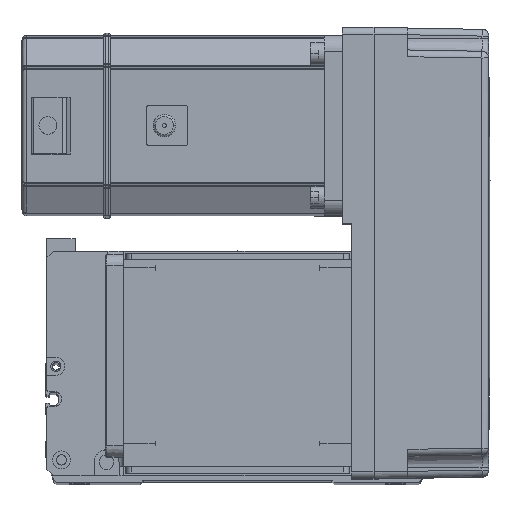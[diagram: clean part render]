
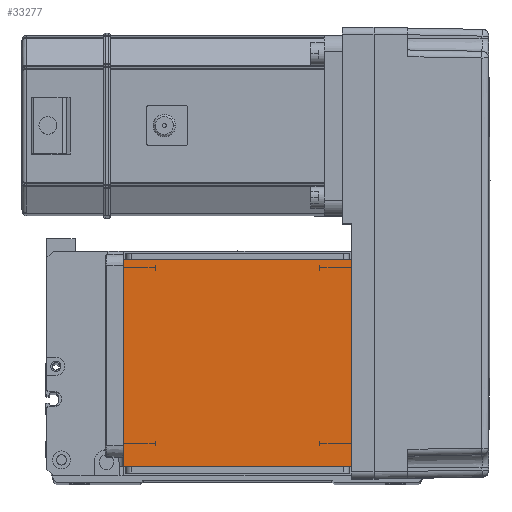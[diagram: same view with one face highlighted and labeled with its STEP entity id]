
A CAD part, top view. The second image highlights one B-rep face of the part: STEP entity #33277.
In plain terms, the highlighted planar face has unit normal (0, 0, 1).
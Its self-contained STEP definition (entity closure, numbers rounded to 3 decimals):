
#3166 = ORIENTED_EDGE ( 'NONE', *, *, #49064, .F. ) ;
#3551 = DIRECTION ( 'NONE',  ( 0., -1., 0. ) ) ;
#3850 = VERTEX_POINT ( 'NONE', #52115 ) ;
#4165 = VECTOR ( 'NONE', #19598, 1000. ) ;
#7232 = ORIENTED_EDGE ( 'NONE', *, *, #43870, .F. ) ;
#9230 = LINE ( 'NONE', #23670, #50825 ) ;
#10717 = VERTEX_POINT ( 'NONE', #40533 ) ;
#10720 = LINE ( 'NONE', #16840, #53672 ) ;
#12162 = EDGE_CURVE ( 'NONE', #10717, #45745, #10720, .T. ) ;
#12517 = FACE_OUTER_BOUND ( 'NONE', #13568, .T. ) ;
#13568 = EDGE_LOOP ( 'NONE', ( #7232, #18607, #3166, #28183 ) ) ;
#16840 = CARTESIAN_POINT ( 'NONE',  ( -50.5, 122., 115. ) ) ;
#17579 = LINE ( 'NONE', #23486, #20952 ) ;
#18195 = PLANE ( 'NONE',  #24698 ) ;
#18607 = ORIENTED_EDGE ( 'NONE', *, *, #12162, .T. ) ;
#19598 = DIRECTION ( 'NONE',  ( 1., 0., 0. ) ) ;
#20952 = VECTOR ( 'NONE', #54179, 1000. ) ;
#23486 = CARTESIAN_POINT ( 'NONE',  ( 50.5, 122., 115. ) ) ;
#23670 = CARTESIAN_POINT ( 'NONE',  ( -70.004, 20., 115. ) ) ;
#24698 = AXIS2_PLACEMENT_3D ( 'NONE', #44487, #31337, #48323 ) ;
#28183 = ORIENTED_EDGE ( 'NONE', *, *, #35390, .T. ) ;
#28471 = DIRECTION ( 'NONE',  ( -1., 0., 0. ) ) ;
#31337 = DIRECTION ( 'NONE',  ( 0., 0., 1. ) ) ;
#31431 = CARTESIAN_POINT ( 'NONE',  ( -70.004, 111.5, 115. ) ) ;
#33277 = ADVANCED_FACE ( 'NONE', ( #12517 ), #18195, .T. ) ;
#34105 = CARTESIAN_POINT ( 'NONE',  ( 50.5, 20., 115. ) ) ;
#35390 = EDGE_CURVE ( 'NONE', #54077, #3850, #17579, .T. ) ;
#36986 = CARTESIAN_POINT ( 'NONE',  ( -50.5, 20., 115. ) ) ;
#40533 = CARTESIAN_POINT ( 'NONE',  ( -50.5, 111.5, 115. ) ) ;
#43870 = EDGE_CURVE ( 'NONE', #10717, #3850, #47129, .T. ) ;
#44487 = CARTESIAN_POINT ( 'NONE',  ( 0., 0., 115. ) ) ;
#45745 = VERTEX_POINT ( 'NONE', #36986 ) ;
#47129 = LINE ( 'NONE', #31431, #4165 ) ;
#48323 = DIRECTION ( 'NONE',  ( 1., 0., 0. ) ) ;
#49064 = EDGE_CURVE ( 'NONE', #54077, #45745, #9230, .T. ) ;
#50825 = VECTOR ( 'NONE', #28471, 1000. ) ;
#52115 = CARTESIAN_POINT ( 'NONE',  ( 50.5, 111.5, 115. ) ) ;
#53672 = VECTOR ( 'NONE', #3551, 1000. ) ;
#54077 = VERTEX_POINT ( 'NONE', #34105 ) ;
#54179 = DIRECTION ( 'NONE',  ( 0., 1., 0. ) ) ;
